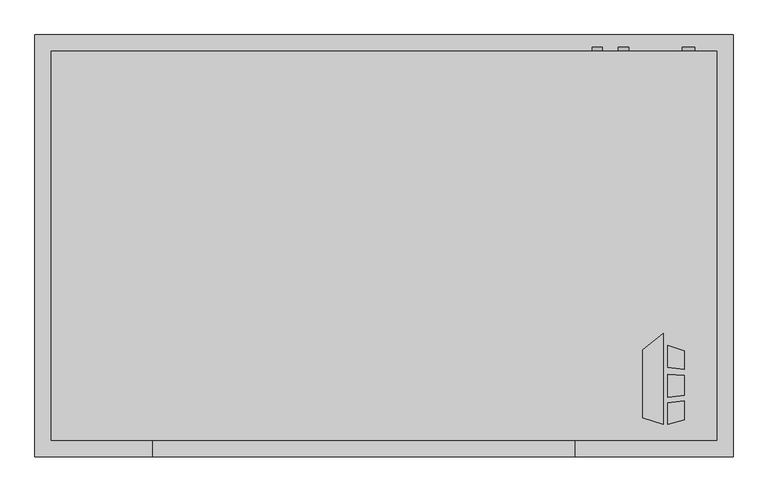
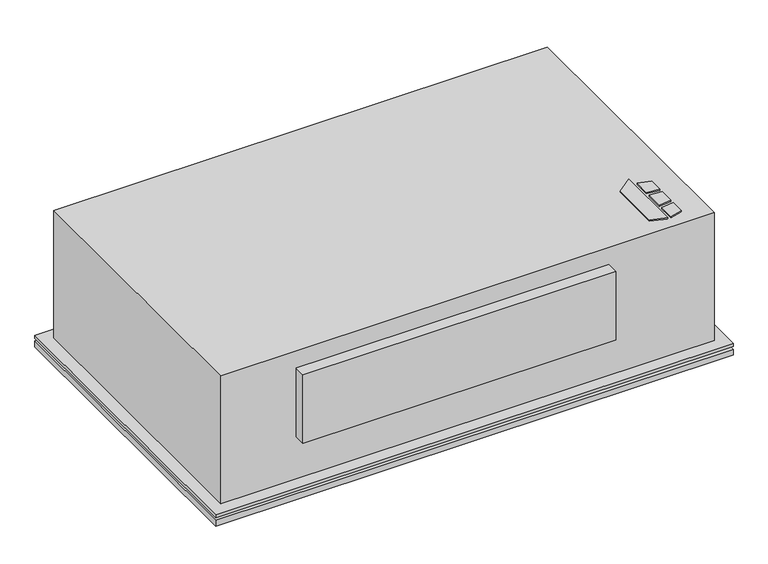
"""IFC4 building model written with IfcOpenShell, lengths in millimetres: proxy geometry, Horizontal_Telescoping_Fan_Coil_Unit_-_CBY_-_IEC_-_2-Pipe_Cool-EHeat_RH_2022 : Size 04 - 277v/60Hz/1Ph - 4 Row 3.0kW."""

from ifc_helpers import new_model, si_unit, point, frame, frame_2d, origin, origin_with_axes, place, context, project, spatial, polyline, circle_curve, trimmed, segment, composite_curve, outline, extrude, source, transform, mapped, element, save


def mechanical_equipment_d2c932b0(model_context):
    return source(origin(), model_context, "Body", "SweptSolid", [
        extrude(outline(polyline([(556.9019761, -401.0078476), (589.4602728, -375.5705184), (589.4602728, -517.525), (556.9019761, -507.3054201), (556.9019761, -401.0078476)])), origin_with_axes(), (0.0, 0.0, 1.0), 3.175),
        extrude(outline(polyline([(596.2186058, -428.879852), (596.2186058, -394.3999379), (622.3, -402.5865115), (622.3, -432.0822446), (596.2186058, -428.879852)])), origin_with_axes(), (0.0, 0.0, 1.0), 3.175),
        extrude(outline(polyline([(622.3, -510.5365115), (596.2186058, -517.525), (596.2186058, -484.3036996), (622.3, -480.7618564), (622.3, -510.5365115)])), origin_with_axes(), (0.0, 0.0, 1.0), 3.175),
        extrude(outline(polyline([(622.3, -441.1638277), (622.3, -472.413983), (596.2186058, -475.155248), (596.2186058, -439.2975378), (622.3, -441.1638277)])), origin_with_axes(), (0.0, 0.0, 1.0), 3.175),
        extrude(outline(composite_curve([segment(trimmed(circle_curve(frame_2d((-95.25, 527.05)), 7.9375), [point((-95.25, 534.9875))], [point((-95.25, 519.1125))], False, "CARTESIAN"), True, "CONTINUOUS"), segment(trimmed(circle_curve(frame_2d((-95.25, 527.05)), 7.9375), [point((-95.25, 519.1125))], [point((-95.25, 534.9875))], False, "CARTESIAN"), True, "CONTINUOUS")], self_intersect=False)), frame((0.0, 66.675, 0.0), z_axis=(0.0, 1.0, 0.0), x_axis=(0.0, 0.0, 1.0)), (0.0, 0.0, 1.0), 6.35),
        extrude(outline(composite_curve([segment(trimmed(circle_curve(frame_2d((-60.325, 485.775)), 7.9375), [point((-60.325, 493.7125))], [point((-60.325, 477.8375))], False, "CARTESIAN"), True, "CONTINUOUS"), segment(trimmed(circle_curve(frame_2d((-60.325, 485.775)), 7.9375), [point((-60.325, 477.8375))], [point((-60.325, 493.7125))], False, "CARTESIAN"), True, "CONTINUOUS")], self_intersect=False)), frame((0.0, 66.675, 0.0), z_axis=(0.0, 1.0, 0.0), x_axis=(0.0, 0.0, 1.0)), (0.0, 0.0, 1.0), 6.35),
        extrude(outline(composite_curve([segment(trimmed(circle_curve(frame_2d((-260.35, 628.65)), 9.525), [point((-260.35, 638.175))], [point((-260.35, 619.125))], False, "CARTESIAN"), True, "CONTINUOUS"), segment(trimmed(circle_curve(frame_2d((-260.35, 628.65)), 9.525), [point((-260.35, 619.125))], [point((-260.35, 638.175))], False, "CARTESIAN"), True, "CONTINUOUS")], self_intersect=False)), frame((0.0, 66.675, 0.0), z_axis=(0.0, 1.0, 0.0), x_axis=(0.0, 0.0, 1.0)), (0.0, 0.0, 1.0), 6.35),
        extrude(outline(polyline([(698.5, 92.075), (698.5, -568.325), (-393.7, -568.325), (-393.7, 92.075), (698.5, 92.075)])), frame((0.0, 0.0, -311.15), z_axis=(0.0, 0.0, 1.0), x_axis=(1.0, 0.0, 0.0)), (0.0, 0.0, 1.0), 12.7),
        extrude(outline(polyline([(698.5, 92.075), (698.5, -568.325), (-393.7, -568.325), (-393.7, 92.075), (698.5, 92.075)])), frame((0.0, 0.0, -292.1), z_axis=(0.0, 0.0, 1.0), x_axis=(1.0, 0.0, 0.0)), (0.0, 0.0, 1.0), 6.35),
        extrude(outline(polyline([(673.1, 66.675), (673.1, -542.925), (-368.3, -542.925), (-368.3, 66.675), (673.1, 66.675)])), frame((0.0, 0.0, -298.45), z_axis=(0.0, 0.0, 1.0), x_axis=(1.0, 0.0, 0.0)), (0.0, 0.0, 1.0), 6.35),
        extrude(outline(polyline([(450.85, -568.325), (-209.55, -568.325), (-209.55, -542.925), (450.85, -542.925), (450.85, -568.325)])), frame((0.0, 0.0, -190.5), z_axis=(0.0, 0.0, 1.0), x_axis=(1.0, 0.0, 0.0)), (0.0, 0.0, 1.0), 152.4),
        extrude(outline(polyline([(-368.3, 66.675), (673.1, 66.675), (673.1, -542.925), (-368.3, -542.925), (-368.3, 66.675)])), frame((0.0, 0.0, -285.75), z_axis=(0.0, 0.0, 1.0), x_axis=(1.0, 0.0, 0.0)), (0.0, 0.0, 1.0), 285.75),
        extrude(outline(polyline([(571.5, -9.525), (571.5, -263.525), (-266.7, -263.525), (-266.7, -9.525), (571.5, -9.525)])), frame((0.0, 0.0, -317.5), z_axis=(0.0, 0.0, 1.0), x_axis=(1.0, 0.0, 0.0)), (0.0, 0.0, 1.0), 6.35),
    ])


if __name__ == "__main__":
    model = new_model("IFC4")
    model_context = context("Model", 3, world=origin())
    ifc_project = project(units=[si_unit("LENGTHUNIT", "METRE", prefix="MILLI")], contexts=[model_context])
    site = spatial("IfcSite", under=ifc_project)
    building = spatial("IfcBuilding", under=site)
    placement = place(None, origin())
    mechanical_equipment_shape = mechanical_equipment_d2c932b0(model_context)
    element("IfcBuildingElementProxy", 1, Name="Horizontal_Telescoping_Fan_Coil_Unit_-_CBY_-_IEC_-_2-Pipe_Cool-EHeat_RH_2022 : Size 04 - 277v/60Hz/1Ph - 4 Row 3.0kW", ObjectType="Horizontal_Telescoping_Fan_Coil_Unit_-_CBY_-_IEC_-_2-Pipe_Cool-EHeat_RH_2022 : Size 04 - 277v/60Hz/1Ph - 4 Row 3.0kW", at=placement, inside=building, context=model_context, shape_type="MappedRepresentation", body=[
        mapped(mechanical_equipment_shape, transform((0.0, 0.0, 0.0), x_axis=(1.0, 0.0, 0.0), y_axis=(0.0, 1.0, 0.0), z_axis=(0.0, 0.0, 1.0))),
    ])
    save(model, "model.ifc")
